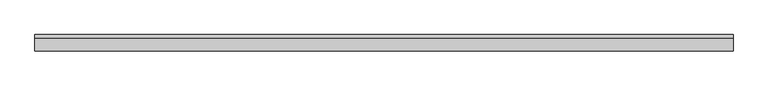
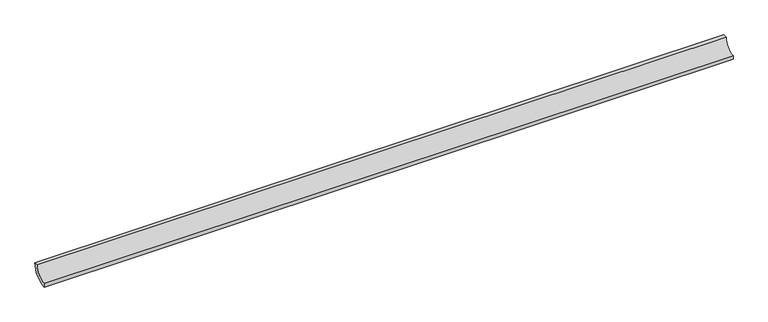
"""IFC4 building model written with IfcOpenShell, lengths in millimetres: proxy geometry, EXAGRES - Piscina Mediacaña1 : Publica_Azul_24.5x4cm."""

from ifc_helpers import new_model, si_unit, point, frame, frame_2d, origin, place, context, project, spatial, polyline, circle_curve, trimmed, segment, composite_curve, outline, extrude, source, transform, mapped, element, save


def generic_models_188eaae2(model_context):
    return source(origin(), model_context, "Body", "SweptSolid", [
        extrude(outline(composite_curve([segment(trimmed(circle_curve(frame_2d((-26.0, 26.0)), 26.0), [point((-26.0, 0.0))], [point((0.0, 26.0))], True, "CARTESIAN"), True, "CONTINUOUS"), segment(polyline([(0.0, 26.0), (8.5, 26.0)]), True, "CONTINUOUS"), segment(trimmed(circle_curve(frame_2d((-26.0, 26.0)), 34.5), [point((8.5, 26.0))], [point((-26.0, -8.5))], False, "CARTESIAN"), True, "CONTINUOUS"), segment(polyline([(-26.0, -8.5), (-26.0, 0.0)]), True, "CONTINUOUS")], self_intersect=False)), frame((0.0, 0.0, 0.0), z_axis=(1.0, 0.0, 0.0), x_axis=(0.0, 1.0, 0.0)), (0.0, 0.0, 1.0), 1474.0),
    ])


if __name__ == "__main__":
    model = new_model("IFC4")
    model_context = context("Model", 3, world=origin())
    ifc_project = project(units=[si_unit("LENGTHUNIT", "METRE", prefix="MILLI")], contexts=[model_context])
    site = spatial("IfcSite", under=ifc_project)
    building = spatial("IfcBuilding", under=site)
    placement = place(None, origin())
    generic_models_shape = generic_models_188eaae2(model_context)
    element("IfcBuildingElementProxy", 1, Name="EXAGRES - Piscina Mediacaña1 : Publica_Azul_24.5x4cm", ObjectType="EXAGRES - Piscina Mediacaña1 : Publica_Azul_24.5x4cm", at=placement, inside=building, context=model_context, shape_type="MappedRepresentation", body=[
        mapped(generic_models_shape, transform((0.0, 0.0, 0.0), x_axis=(1.0, 0.0, 0.0), y_axis=(0.0, 1.0, 0.0), z_axis=(0.0, 0.0, 1.0))),
    ])
    save(model, "model.ifc")
